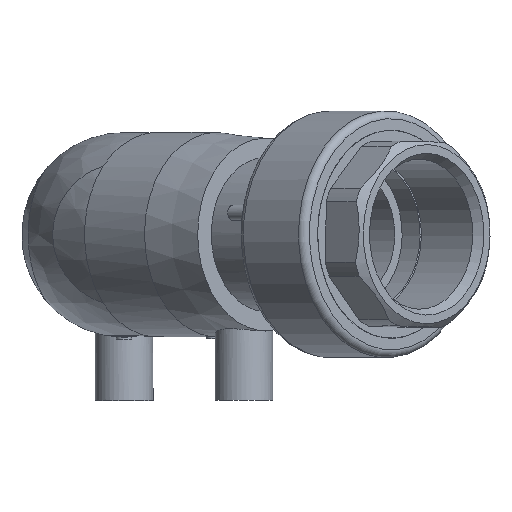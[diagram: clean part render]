
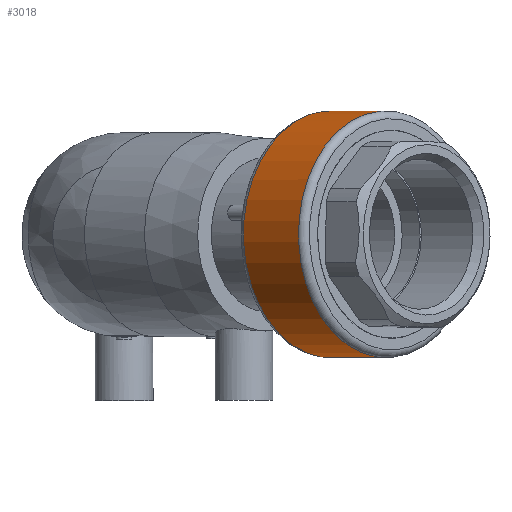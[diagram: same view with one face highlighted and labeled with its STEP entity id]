
A CAD part, top view. The second image highlights one B-rep face of the part: STEP entity #3018.
In plain terms, the highlighted cylindrical face has radius 32 mm (diameter 64 mm), a full revolution.
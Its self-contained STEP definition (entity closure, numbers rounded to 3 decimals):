
#493=CYLINDRICAL_SURFACE('',#3855,32.);
#980=ORIENTED_EDGE('',*,*,#1587,.T.);
#981=ORIENTED_EDGE('',*,*,#1588,.F.);
#1587=EDGE_CURVE('',#1927,#1927,#2169,.T.);
#1588=EDGE_CURVE('',#1928,#1928,#2170,.T.);
#1927=VERTEX_POINT('',#6682);
#1928=VERTEX_POINT('',#6685);
#2169=CIRCLE('',#3854,32.);
#2170=CIRCLE('',#3856,32.);
#2407=EDGE_LOOP('',(#980));
#2408=EDGE_LOOP('',(#981));
#2680=FACE_BOUND('',#2407,.T.);
#2681=FACE_BOUND('',#2408,.T.);
#3018=ADVANCED_FACE('',(#2680,#2681),#493,.T.);
#3854=AXIS2_PLACEMENT_3D('',#6681,#4528,#4529);
#3855=AXIS2_PLACEMENT_3D('',#6683,#4530,#4531);
#3856=AXIS2_PLACEMENT_3D('',#6684,#4532,#4533);
#4528=DIRECTION('',(-1.,0.,0.));
#4529=DIRECTION('',(0.,0.,1.));
#4530=DIRECTION('',(-1.,0.,0.));
#4531=DIRECTION('',(0.,0.,1.));
#4532=DIRECTION('',(-1.,0.,0.));
#4533=DIRECTION('',(0.,0.,1.));
#6681=CARTESIAN_POINT('',(22.233,0.,0.));
#6682=CARTESIAN_POINT('',(22.233,0.,32.));
#6683=CARTESIAN_POINT('',(-60.,0.,0.));
#6684=CARTESIAN_POINT('',(2.,0.,0.));
#6685=CARTESIAN_POINT('',(2.,0.,32.));
